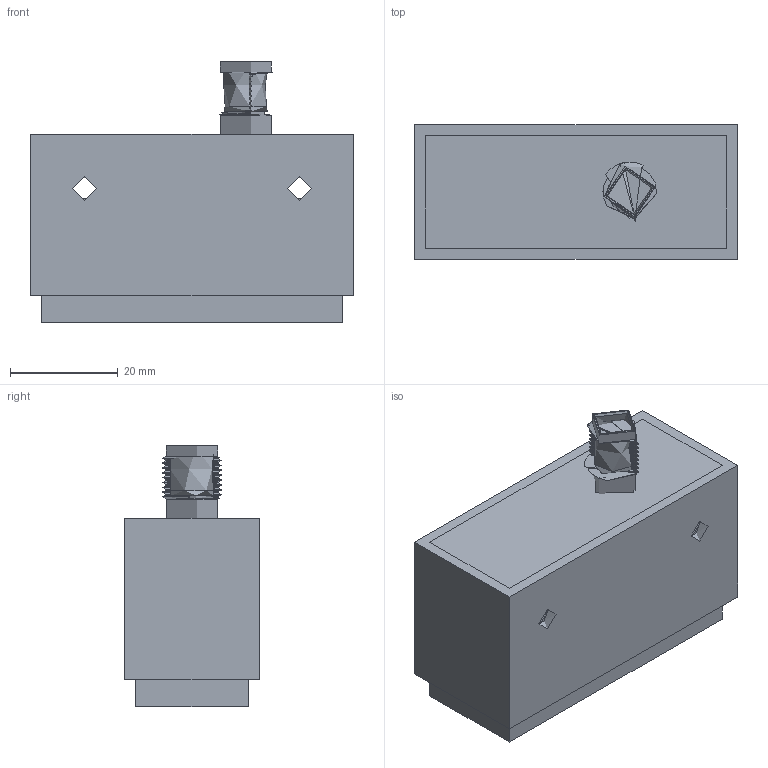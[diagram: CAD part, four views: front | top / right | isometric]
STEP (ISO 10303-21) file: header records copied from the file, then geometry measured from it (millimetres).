
FILE_DESCRIPTION((''),'2;1');
FILE_NAME('F:\daten\PRODUKTE\TELEMETR\A\Mechanik\CAD\8B\8B\Antenne_8B.stp','2013-04-08T15:09:56',('marquardt'),(''),'Autodesk Inventor 2011','Autodesk Inventor 2011','');
FILE_SCHEMA(('AUTOMOTIVE_DESIGN { 1 0 10303 214 1 1 1 1 }'));
Products named in the file (5): Antenne_8B; Antennengehaeuse_8b; TNC; Verguß; ISO 7046-2 H M2.5x3 - 8.8 - H1
Assembly tree (4 placements, depth 2):
  Antenne_8B
    Antennengehaeuse_8b
    TNC
    Verguß
    ISO 7046-2 H M2.5x3 - 8.8 - H1
Bounding box: 60 x 25 x 48.58 mm (x, y, z)
Topology: 4 solids, 5 shells, 77 faces, 241 edges, 175 vertices
Faces by surface type: plane 43, cylinder 19, cone 12, bspline 2, torus 1
Full cylindrical faces by diameter (mm): 2.5 x2, 2.7 x1, 4.5 x6, 4.7 x1, 6.3 x1, 7.05 x1, 8.13 x1, 9 x1, 9.6 x1, 9.68 x1, 10 x1
Entity records: 3350 total; most frequent: CARTESIAN_POINT 1375, ORIENTED_EDGE 396, DIRECTION 335, EDGE_CURVE 198, VERTEX_POINT 163, AXIS2_PLACEMENT_3D 128, EDGE_LOOP 124, VECTOR 79
